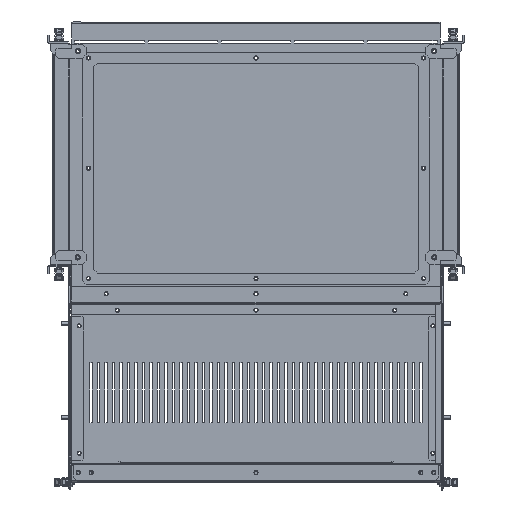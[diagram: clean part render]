
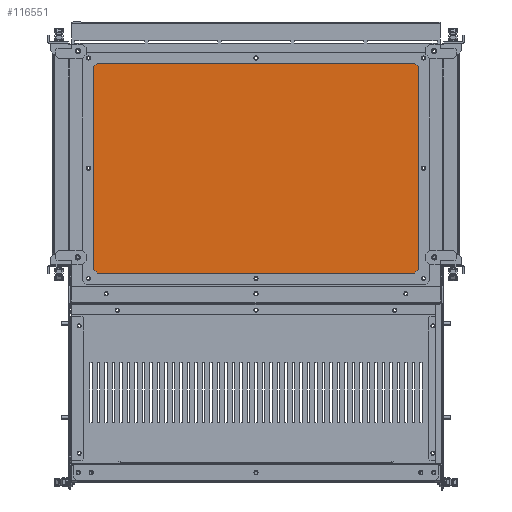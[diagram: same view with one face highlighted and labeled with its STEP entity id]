
A CAD part, top view. The second image highlights one B-rep face of the part: STEP entity #116551.
In plain terms, the highlighted planar face has unit normal (0, 0, 1).
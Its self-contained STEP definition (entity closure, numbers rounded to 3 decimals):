
#114396=CARTESIAN_POINT(' ',(-2.75,-147.,0.));
#114397=VERTEX_POINT(' ',#114396);
#114411=CARTESIAN_POINT(' ',(0.,-147.,0.));
#114416=DIRECTION(' ',(0.,-0.,1.));
#114421=DIRECTION(' ',(-1.,0.,0.));
#114426=AXIS2_PLACEMENT_3D(' ',#114411,#114416,#114421);
#114431=CIRCLE('',#114426,2.75);
#114436=CARTESIAN_POINT(' ',(2.75,-147.,0.));
#114437=VERTEX_POINT(' ',#114436);
#114441=EDGE_CURVE(' ',#114397,#114437,#114431,.T.);
#115536=CARTESIAN_POINT(' ',(0.,-147.,0.));
#115541=DIRECTION(' ',(0.,0.,1.));
#115546=DIRECTION(' ',(1.,0.,0.));
#115551=AXIS2_PLACEMENT_3D(' ',#115536,#115541,#115546);
#115556=CIRCLE('',#115551,2.75);
#115561=EDGE_CURVE(' ',#114437,#114397,#115556,.T.);
#115586=DIRECTION(' ',(-0.,-0.,1.));
#115591=CARTESIAN_POINT(' ',(231.5,-155.,0.));
#115596=DIRECTION(' ',(0.,1.,0.));
#115601=AXIS2_PLACEMENT_3D(' ',#115591,#115586,#115596);
#115606=PLANE('NONE',#115601);
#115611=CARTESIAN_POINT(' ',(226.5,155.,0.));
#115616=DIRECTION(' ',(-1.,0.,0.));
#115621=VECTOR(' ',#115616,1.);
#115626=LINE('',#115611,#115621);
#115631=CARTESIAN_POINT(' ',(226.5,155.,0.));
#115632=VERTEX_POINT(' ',#115631);
#115636=CARTESIAN_POINT(' ',(-226.5,155.,0.));
#115637=VERTEX_POINT(' ',#115636);
#115641=EDGE_CURVE(' ',#115632,#115637,#115626,.T.);
#115646=ORIENTED_EDGE(' ',*,*,#115641,.T.);
#115651=CARTESIAN_POINT(' ',(-226.5,155.,0.));
#115656=DIRECTION(' ',(-0.707,-0.707,0.));
#115661=VECTOR(' ',#115656,1.);
#115666=LINE('',#115651,#115661);
#115671=CARTESIAN_POINT(' ',(-231.5,150.,0.));
#115672=VERTEX_POINT(' ',#115671);
#115676=EDGE_CURVE(' ',#115637,#115672,#115666,.T.);
#115681=ORIENTED_EDGE(' ',*,*,#115676,.T.);
#115686=CARTESIAN_POINT(' ',(-231.5,150.,0.));
#115691=DIRECTION(' ',(0.,-1.,0.));
#115696=VECTOR(' ',#115691,1.);
#115701=LINE('',#115686,#115696);
#115706=CARTESIAN_POINT(' ',(-231.5,-150.,0.));
#115707=VERTEX_POINT(' ',#115706);
#115711=EDGE_CURVE(' ',#115672,#115707,#115701,.T.);
#115716=ORIENTED_EDGE(' ',*,*,#115711,.T.);
#115721=CARTESIAN_POINT(' ',(-231.5,-150.,0.));
#115726=DIRECTION(' ',(0.707,-0.707,0.));
#115731=VECTOR(' ',#115726,1.);
#115736=LINE('',#115721,#115731);
#115741=CARTESIAN_POINT(' ',(-226.5,-155.,0.));
#115742=VERTEX_POINT(' ',#115741);
#115746=EDGE_CURVE(' ',#115707,#115742,#115736,.T.);
#115751=ORIENTED_EDGE(' ',*,*,#115746,.T.);
#115756=CARTESIAN_POINT(' ',(-226.5,-155.,0.));
#115761=DIRECTION(' ',(1.,0.,0.));
#115766=VECTOR(' ',#115761,1.);
#115771=LINE('',#115756,#115766);
#115776=CARTESIAN_POINT(' ',(226.5,-155.,0.));
#115777=VERTEX_POINT(' ',#115776);
#115781=EDGE_CURVE(' ',#115742,#115777,#115771,.T.);
#115786=ORIENTED_EDGE(' ',*,*,#115781,.T.);
#115791=CARTESIAN_POINT(' ',(226.5,-155.,0.));
#115796=DIRECTION(' ',(0.707,0.707,0.));
#115801=VECTOR(' ',#115796,1.);
#115806=LINE('',#115791,#115801);
#115811=CARTESIAN_POINT(' ',(231.5,-150.,0.));
#115812=VERTEX_POINT(' ',#115811);
#115816=EDGE_CURVE(' ',#115777,#115812,#115806,.T.);
#115821=ORIENTED_EDGE(' ',*,*,#115816,.T.);
#115826=CARTESIAN_POINT(' ',(231.5,-150.,0.));
#115831=DIRECTION(' ',(0.,1.,0.));
#115836=VECTOR(' ',#115831,1.);
#115841=LINE('',#115826,#115836);
#115846=CARTESIAN_POINT(' ',(231.5,150.,0.));
#115847=VERTEX_POINT(' ',#115846);
#115851=EDGE_CURVE(' ',#115812,#115847,#115841,.T.);
#115856=ORIENTED_EDGE(' ',*,*,#115851,.T.);
#115861=CARTESIAN_POINT(' ',(231.5,150.,0.));
#115866=DIRECTION(' ',(-0.707,0.707,0.));
#115871=VECTOR(' ',#115866,1.);
#115876=LINE('',#115861,#115871);
#115881=EDGE_CURVE(' ',#115847,#115632,#115876,.T.);
#115886=ORIENTED_EDGE(' ',*,*,#115881,.T.);
#115891=EDGE_LOOP(' ',(#115646,#115681,#115716,#115751,#115786,#115821,#115856,#115886));
#115896=FACE_OUTER_BOUND(' ',#115891,.T.);
#115901=ORIENTED_EDGE(' ',*,*,#115561,.F.);
#115906=ORIENTED_EDGE(' ',*,*,#114441,.F.);
#115911=EDGE_LOOP(' ',(#115901,#115906));
#115916=FACE_BOUND(' ',#115911,.T.);
#115921=CARTESIAN_POINT(' ',(-223.5,0.,0.));
#115926=DIRECTION(' ',(0.,0.,1.));
#115931=DIRECTION(' ',(1.,0.,0.));
#115936=AXIS2_PLACEMENT_3D(' ',#115921,#115926,#115931);
#115941=CIRCLE('',#115936,2.75);
#115946=CARTESIAN_POINT(' ',(-220.75,0.,0.));
#115947=VERTEX_POINT(' ',#115946);
#115951=CARTESIAN_POINT(' ',(-226.25,0.,0.));
#115952=VERTEX_POINT(' ',#115951);
#115956=EDGE_CURVE(' ',#115947,#115952,#115941,.T.);
#115961=ORIENTED_EDGE(' ',*,*,#115956,.F.);
#115966=CARTESIAN_POINT(' ',(-223.5,0.,0.));
#115971=DIRECTION(' ',(0.,-0.,1.));
#115976=DIRECTION(' ',(-1.,0.,0.));
#115981=AXIS2_PLACEMENT_3D(' ',#115966,#115971,#115976);
#115986=CIRCLE('',#115981,2.75);
#115991=EDGE_CURVE(' ',#115952,#115947,#115986,.T.);
#115996=ORIENTED_EDGE(' ',*,*,#115991,.F.);
#116001=EDGE_LOOP(' ',(#115961,#115996));
#116006=FACE_BOUND(' ',#116001,.T.);
#116011=CARTESIAN_POINT(' ',(-223.5,-147.,0.));
#116016=DIRECTION(' ',(0.,0.,1.));
#116021=DIRECTION(' ',(1.,0.,0.));
#116026=AXIS2_PLACEMENT_3D(' ',#116011,#116016,#116021);
#116031=CIRCLE('',#116026,2.75);
#116036=CARTESIAN_POINT(' ',(-220.75,-147.,0.));
#116037=VERTEX_POINT(' ',#116036);
#116041=CARTESIAN_POINT(' ',(-226.25,-147.,0.));
#116042=VERTEX_POINT(' ',#116041);
#116046=EDGE_CURVE(' ',#116037,#116042,#116031,.T.);
#116051=ORIENTED_EDGE(' ',*,*,#116046,.F.);
#116056=CARTESIAN_POINT(' ',(-223.5,-147.,0.));
#116061=DIRECTION(' ',(0.,-0.,1.));
#116066=DIRECTION(' ',(-1.,0.,0.));
#116071=AXIS2_PLACEMENT_3D(' ',#116056,#116061,#116066);
#116076=CIRCLE('',#116071,2.75);
#116081=EDGE_CURVE(' ',#116042,#116037,#116076,.T.);
#116086=ORIENTED_EDGE(' ',*,*,#116081,.F.);
#116091=EDGE_LOOP(' ',(#116051,#116086));
#116096=FACE_BOUND(' ',#116091,.T.);
#116101=CARTESIAN_POINT(' ',(223.5,-147.,0.));
#116106=DIRECTION(' ',(0.,0.,1.));
#116111=DIRECTION(' ',(1.,0.,0.));
#116116=AXIS2_PLACEMENT_3D(' ',#116101,#116106,#116111);
#116121=CIRCLE('',#116116,2.75);
#116126=CARTESIAN_POINT(' ',(226.25,-147.,0.));
#116127=VERTEX_POINT(' ',#116126);
#116131=CARTESIAN_POINT(' ',(220.75,-147.,0.));
#116132=VERTEX_POINT(' ',#116131);
#116136=EDGE_CURVE(' ',#116127,#116132,#116121,.T.);
#116141=ORIENTED_EDGE(' ',*,*,#116136,.F.);
#116146=CARTESIAN_POINT(' ',(223.5,-147.,0.));
#116151=DIRECTION(' ',(0.,-0.,1.));
#116156=DIRECTION(' ',(-1.,0.,0.));
#116161=AXIS2_PLACEMENT_3D(' ',#116146,#116151,#116156);
#116166=CIRCLE('',#116161,2.75);
#116171=EDGE_CURVE(' ',#116132,#116127,#116166,.T.);
#116176=ORIENTED_EDGE(' ',*,*,#116171,.F.);
#116181=EDGE_LOOP(' ',(#116141,#116176));
#116186=FACE_BOUND(' ',#116181,.T.);
#116191=CARTESIAN_POINT(' ',(223.5,147.,0.));
#116196=DIRECTION(' ',(0.,0.,1.));
#116201=DIRECTION(' ',(1.,0.,0.));
#116206=AXIS2_PLACEMENT_3D(' ',#116191,#116196,#116201);
#116211=CIRCLE('',#116206,2.75);
#116216=CARTESIAN_POINT(' ',(226.25,147.,0.));
#116217=VERTEX_POINT(' ',#116216);
#116221=CARTESIAN_POINT(' ',(220.75,147.,0.));
#116222=VERTEX_POINT(' ',#116221);
#116226=EDGE_CURVE(' ',#116217,#116222,#116211,.T.);
#116231=ORIENTED_EDGE(' ',*,*,#116226,.F.);
#116236=CARTESIAN_POINT(' ',(223.5,147.,0.));
#116241=DIRECTION(' ',(0.,-0.,1.));
#116246=DIRECTION(' ',(-1.,0.,0.));
#116251=AXIS2_PLACEMENT_3D(' ',#116236,#116241,#116246);
#116256=CIRCLE('',#116251,2.75);
#116261=EDGE_CURVE(' ',#116222,#116217,#116256,.T.);
#116266=ORIENTED_EDGE(' ',*,*,#116261,.F.);
#116271=EDGE_LOOP(' ',(#116231,#116266));
#116276=FACE_BOUND(' ',#116271,.T.);
#116281=CARTESIAN_POINT(' ',(0.,147.,0.));
#116286=DIRECTION(' ',(0.,0.,1.));
#116291=DIRECTION(' ',(1.,0.,0.));
#116296=AXIS2_PLACEMENT_3D(' ',#116281,#116286,#116291);
#116301=CIRCLE('',#116296,2.75);
#116306=CARTESIAN_POINT(' ',(2.75,147.,0.));
#116307=VERTEX_POINT(' ',#116306);
#116311=CARTESIAN_POINT(' ',(-2.75,147.,0.));
#116312=VERTEX_POINT(' ',#116311);
#116316=EDGE_CURVE(' ',#116307,#116312,#116301,.T.);
#116321=ORIENTED_EDGE(' ',*,*,#116316,.F.);
#116326=CARTESIAN_POINT(' ',(0.,147.,0.));
#116331=DIRECTION(' ',(0.,-0.,1.));
#116336=DIRECTION(' ',(-1.,0.,0.));
#116341=AXIS2_PLACEMENT_3D(' ',#116326,#116331,#116336);
#116346=CIRCLE('',#116341,2.75);
#116351=EDGE_CURVE(' ',#116312,#116307,#116346,.T.);
#116356=ORIENTED_EDGE(' ',*,*,#116351,.F.);
#116361=EDGE_LOOP(' ',(#116321,#116356));
#116366=FACE_BOUND(' ',#116361,.T.);
#116371=CARTESIAN_POINT(' ',(-223.5,147.,0.));
#116376=DIRECTION(' ',(0.,0.,1.));
#116381=DIRECTION(' ',(1.,0.,0.));
#116386=AXIS2_PLACEMENT_3D(' ',#116371,#116376,#116381);
#116391=CIRCLE('',#116386,2.75);
#116396=CARTESIAN_POINT(' ',(-220.75,147.,0.));
#116397=VERTEX_POINT(' ',#116396);
#116401=CARTESIAN_POINT(' ',(-226.25,147.,0.));
#116402=VERTEX_POINT(' ',#116401);
#116406=EDGE_CURVE(' ',#116397,#116402,#116391,.T.);
#116411=ORIENTED_EDGE(' ',*,*,#116406,.F.);
#116416=CARTESIAN_POINT(' ',(-223.5,147.,0.));
#116421=DIRECTION(' ',(0.,-0.,1.));
#116426=DIRECTION(' ',(-1.,0.,0.));
#116431=AXIS2_PLACEMENT_3D(' ',#116416,#116421,#116426);
#116436=CIRCLE('',#116431,2.75);
#116441=EDGE_CURVE(' ',#116402,#116397,#116436,.T.);
#116446=ORIENTED_EDGE(' ',*,*,#116441,.F.);
#116451=EDGE_LOOP(' ',(#116411,#116446));
#116456=FACE_BOUND(' ',#116451,.T.);
#116461=CARTESIAN_POINT(' ',(223.5,0.,0.));
#116466=DIRECTION(' ',(0.,0.,1.));
#116471=DIRECTION(' ',(1.,0.,0.));
#116476=AXIS2_PLACEMENT_3D(' ',#116461,#116466,#116471);
#116481=CIRCLE('',#116476,2.75);
#116486=CARTESIAN_POINT(' ',(226.25,0.,0.));
#116487=VERTEX_POINT(' ',#116486);
#116491=CARTESIAN_POINT(' ',(220.75,0.,0.));
#116492=VERTEX_POINT(' ',#116491);
#116496=EDGE_CURVE(' ',#116487,#116492,#116481,.T.);
#116501=ORIENTED_EDGE(' ',*,*,#116496,.F.);
#116506=CARTESIAN_POINT(' ',(223.5,0.,0.));
#116511=DIRECTION(' ',(0.,-0.,1.));
#116516=DIRECTION(' ',(-1.,0.,0.));
#116521=AXIS2_PLACEMENT_3D(' ',#116506,#116511,#116516);
#116526=CIRCLE('',#116521,2.75);
#116531=EDGE_CURVE(' ',#116492,#116487,#116526,.T.);
#116536=ORIENTED_EDGE(' ',*,*,#116531,.F.);
#116541=EDGE_LOOP(' ',(#116501,#116536));
#116546=FACE_BOUND(' ',#116541,.T.);
#116551=ADVANCED_FACE('NONE',(#115896,#115916,#116006,#116096,#116186,#116276,#116366,#116456,#116546),#115606,.T.);
